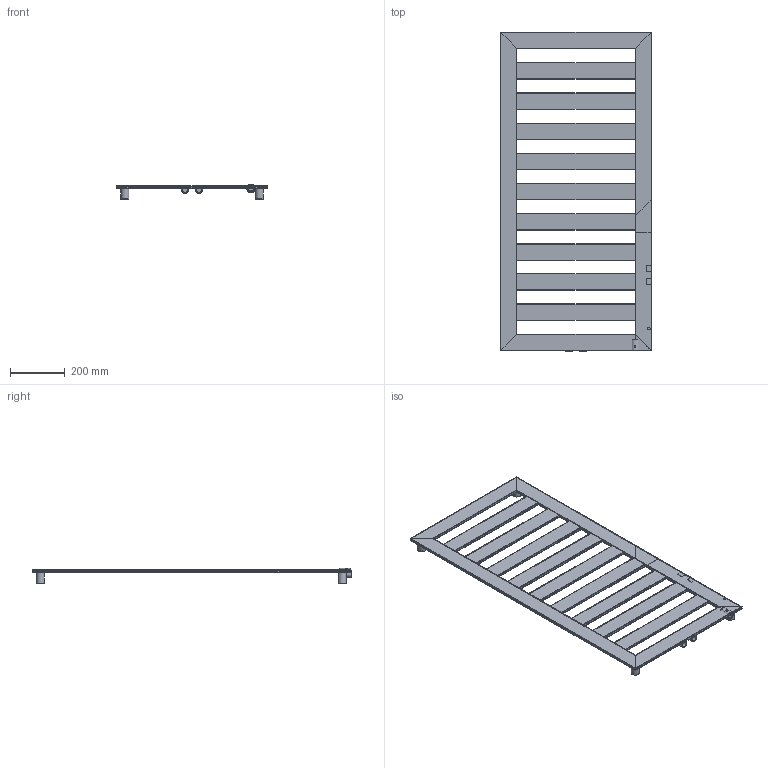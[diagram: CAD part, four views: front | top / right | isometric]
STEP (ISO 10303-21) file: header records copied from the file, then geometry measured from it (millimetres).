
FILE_DESCRIPTION( ( 'Unknown' ), '1' );
FILE_NAME( 'D:/Alplast sp. j/Witryna zespoBu - Projekty/Archiwum/Grzejniki Archiwum/Projekty/DESIGN PROGRAM/ESCALERA/ESCALERA 2.stp', 'Unknown', ( 'Unknown' ), ( 'Unknown' ), 'PSStep 10.1', 'Unknown', ' ' );
FILE_SCHEMA( ( 'AUTOMOTIVE_DESIGN { 1 0 10303 214 1 1 1 1 }' ) );
Length unit declared in the file: millimetre
Products named in the file (24): Assem1; tuleja wieszaka; tuleja wieszaka-oa0; tuleja wieszaka-oa1; tuleja wieszaka-oa2; sworzen wieszaka; sworzen wieszaka-oa3; sworzen wieszaka-oa4; sworzen wieszaka-oa5; kana³ poziomy    górny  60x10   L550; kana³ poziomy    dolny  60x10   L550; mufa prz³aczeniowa; mufa prz³aczeniowa-oa6; kana³ poziomu  60x10   L430; kana³ poziomu  60x10   L430-oa7; kana³ poziomu  60x10   L430-oa8; kana³ poziomu  60x10   L430-oa9; kana³ poziomu  60x10   L430-oa10; kana³ poziomu  60x10   L430-oa11; kana³ poziomu  60x10   L430-oa12; kana³ poziomu  60x10   L430-oa13; kana³ poziomu  60x10   L430-oa14; kana³ pionowy  60x10   L1160; kana³ pionowy  60x10   L1160-oa15
Bounding box: 550 x 1165 x 55.02 mm (x, y, z)
Volume: 3048755.3 mm3; surface area: 3828761.6 mm2
Topology: 46 solids, 46 shells, 866 faces, 2300 edges, 1478 vertices
Faces by surface type: plane 540, cylinder 290, cone 28, bspline 8
Full cylindrical faces by diameter (mm): 4.917 x8, 10 x2, 18.974 x4, 20 x8, 22 x8, 25 x4, 30 x8
Entity records: 17895 total; most frequent: CARTESIAN_POINT 3143, DIRECTION 2270, ORIENTED_EDGE 2208, EDGE_CURVE 1104, LINE 788, VECTOR 788, AXIS2_PLACEMENT_3D 741, VERTEX_POINT 730
